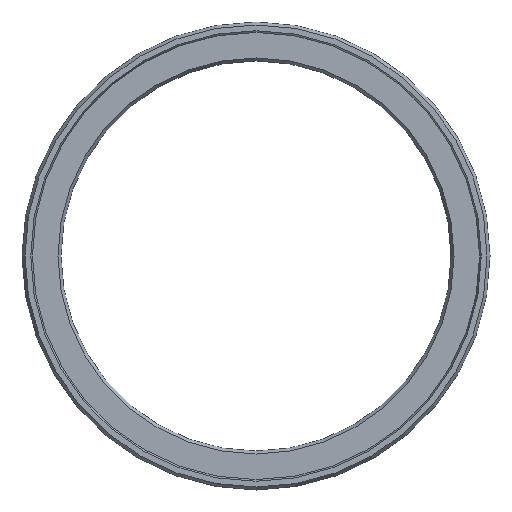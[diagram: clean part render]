
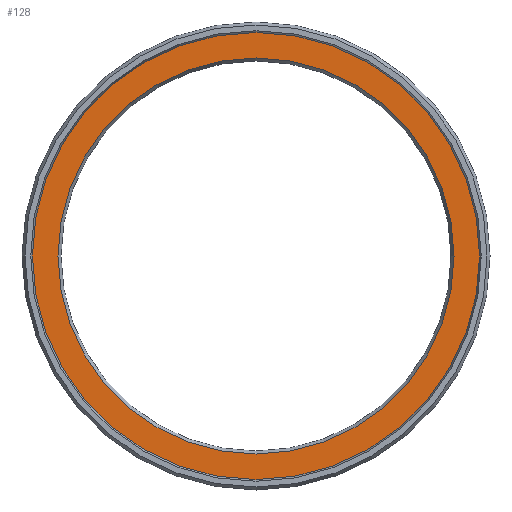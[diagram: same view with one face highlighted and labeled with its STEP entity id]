
A CAD part, left-side view. The second image highlights one B-rep face of the part: STEP entity #128.
In plain terms, the highlighted planar face has unit normal (-1, 0, 0).
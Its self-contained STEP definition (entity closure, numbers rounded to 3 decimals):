
#112=PLANE('',#329);
#128=ADVANCED_FACE('',(#163,#164),#112,.T.);
#163=FACE_BOUND('',#199,.T.);
#164=FACE_BOUND('',#200,.T.);
#199=EDGE_LOOP('',(#235));
#200=EDGE_LOOP('',(#236));
#235=ORIENTED_EDGE('',*,*,#276,.T.);
#236=ORIENTED_EDGE('',*,*,#275,.F.);
#257=VERTEX_POINT('',#454);
#258=VERTEX_POINT('',#457);
#275=EDGE_CURVE('',#257,#257,#293,.T.);
#276=EDGE_CURVE('',#258,#258,#294,.T.);
#293=CIRCLE('',#326,43.);
#294=CIRCLE('',#328,38.077);
#326=AXIS2_PLACEMENT_3D('',#453,#394,#395);
#328=AXIS2_PLACEMENT_3D('',#456,#398,#399);
#329=AXIS2_PLACEMENT_3D('',#458,#400,#401);
#394=DIRECTION('',(1.,0.,0.));
#395=DIRECTION('',(0.,0.,-1.));
#398=DIRECTION('',(1.,0.,0.));
#399=DIRECTION('',(0.,0.,1.));
#400=DIRECTION('',(-1.,0.,0.));
#401=DIRECTION('',(0.,0.,1.));
#453=CARTESIAN_POINT('',(0.,0.,0.));
#454=CARTESIAN_POINT('',(0.,0.,-43.));
#456=CARTESIAN_POINT('',(0.,0.,0.));
#457=CARTESIAN_POINT('',(0.,0.,38.077));
#458=CARTESIAN_POINT('',(0.,43.,0.));
